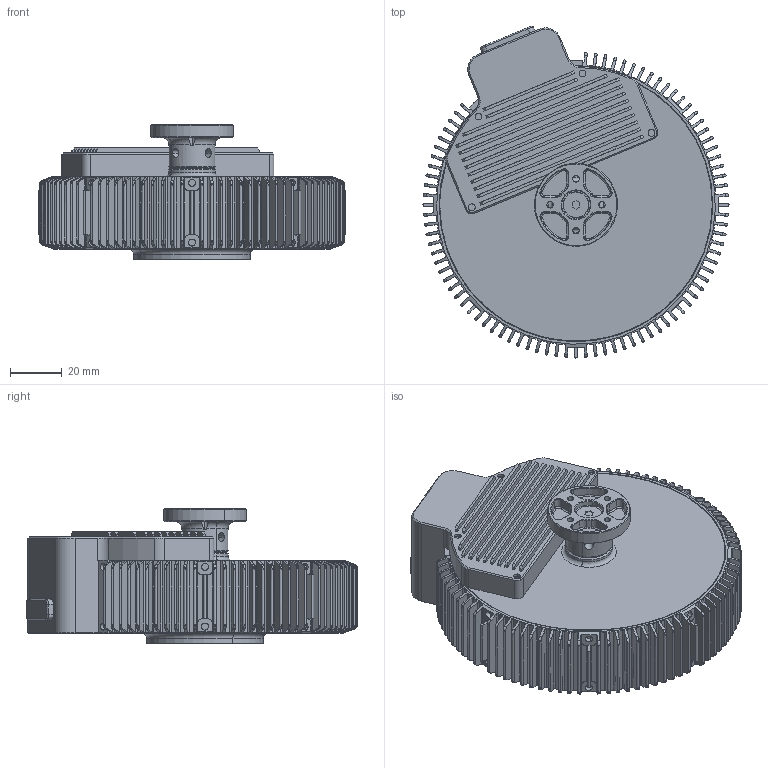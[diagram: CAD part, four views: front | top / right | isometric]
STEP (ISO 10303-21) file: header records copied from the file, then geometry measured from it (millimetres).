
FILE_DESCRIPTION (( 'STEP AP203' ), '1' );
FILE_NAME ('N8M-E-ZT.STEP', '2026-04-03T08:34:15', ( '' ), ( '' ), 'SwSTEP 2.0', 'SolidWorks 2020', '' );
FILE_SCHEMA (( 'CONFIG_CONTROL_DESIGN' ));
Length unit declared in the file: millimetre
Products named in the file (1): N8M-E-ZT
Bounding box: 118 x 128 x 52 mm (x, y, z)
Volume: 326381.2 mm3; surface area: 67087.3 mm2
Topology: 1 solids, 10 shells, 1461 faces, 4066 edges, 2690 vertices
Faces by surface type: cylinder 639, plane 535, torus 195, cone 92
Entity records: 64519 total; most frequent: CARTESIAN_POINT 28909, ORIENTED_EDGE 8124, DIRECTION 6512, EDGE_CURVE 4062, VERTEX_POINT 2690, AXIS2_PLACEMENT_3D 2465, VECTOR 1582, LINE 1582
